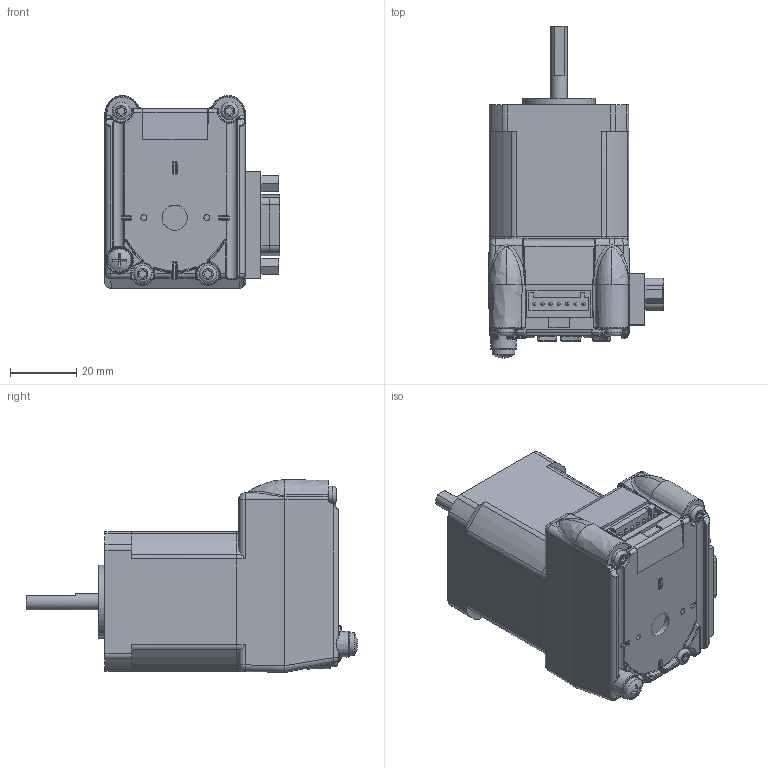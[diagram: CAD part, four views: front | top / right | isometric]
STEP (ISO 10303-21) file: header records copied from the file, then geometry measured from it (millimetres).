
FILE_DESCRIPTION(('MD17 Plus Motion Control, CANopen With DB9 Connector, Triple.stp'),'1');
FILE_NAME('T:/Kubotek Models For Design Assemblies/3D Step File Models Posted on-line/MDrive17 Plus/CANopen with DB-9 connector/MD17 Plus Motion Control, CANopen With DB9 Connector, Triple.stp', '2016-06-17T18:45:10',('P. Bordua, 06/17/16'), ('Schneider Electric Motion USA'), 'KCM Version 1.1.1406.0', 'Kubotek KeyCreator', 'Kubotek KeyCreator');
FILE_SCHEMA(('AUTOMOTIVE_DESIGN'));
Length unit declared in the file: inch
Bounding box: 53.01 x 100.43 x 58.35 mm (x, y, z)
Volume: 139814.9 mm3; surface area: 19622.8 mm2
Topology: 1 solids, 1 shells, 678 faces, 1700 edges, 1051 vertices
Faces by surface type: cylinder 241, plane 188, bspline 160, torus 44, sphere 26, cone 19
Full cylindrical faces by diameter (mm): 1.041 x7, 1.092 x9, 2.261 x2, 2.5 x4, 4.999 x1, 5.385 x4, 6.858 x1, 7.315 x1, 7.62 x1, 9.525 x1, 21.996 x1
Entity records: 46413 total; most frequent: CARTESIAN_POINT 29299, ORIENTED_EDGE 3362, DIRECTION 3094, EDGE_CURVE 1681, AXIS2_PLACEMENT_3D 1266, VERTEX_POINT 1051, EDGE_LOOP 724, FACE_OUTER_BOUND 678
